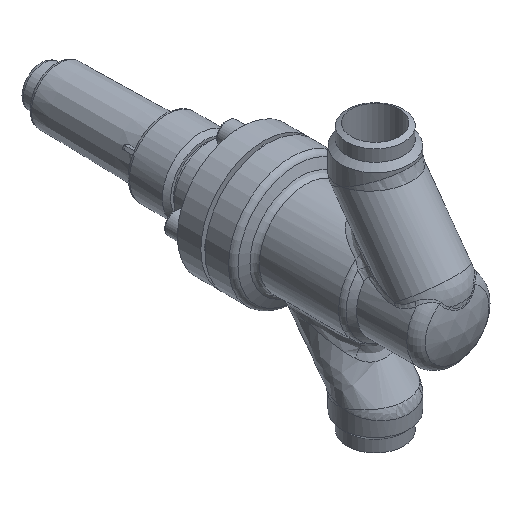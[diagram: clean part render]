
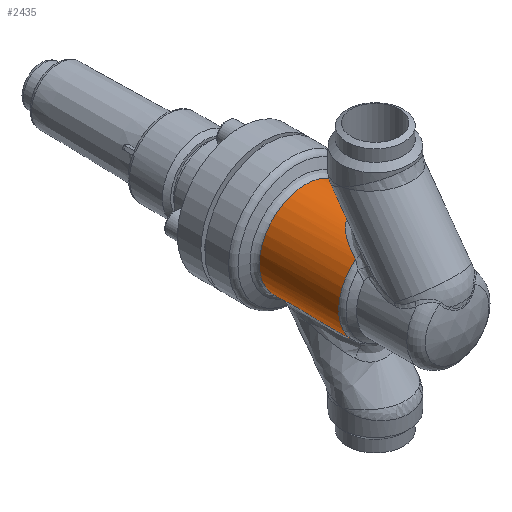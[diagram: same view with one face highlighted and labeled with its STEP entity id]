
A CAD part, isometric view. The second image highlights one B-rep face of the part: STEP entity #2435.
In plain terms, the highlighted cylindrical face has radius 27.5 mm (diameter 55 mm), a partial arc.
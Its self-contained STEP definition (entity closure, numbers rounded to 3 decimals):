
#1814=CARTESIAN_POINT('',(14.746,-12.391,-23.212));
#1815=VERTEX_POINT('',#1814);
#1816=CARTESIAN_POINT('',(-14.746,-12.391,-23.212));
#1817=VERTEX_POINT('',#1816);
#1851=CARTESIAN_POINT('',(20.819,-37.861,-17.967));
#1852=VERTEX_POINT('',#1851);
#1853=CARTESIAN_POINT('',(14.746,-12.391,-23.212));
#1854=CARTESIAN_POINT('',(15.791,-13.097,-22.548));
#1855=CARTESIAN_POINT('',(18.112,-15.081,-20.837));
#1856=CARTESIAN_POINT('',(20.591,-19.238,-18.301));
#1857=CARTESIAN_POINT('',(21.711,-25.101,-16.878));
#1858=CARTESIAN_POINT('',(21.729,-30.689,-16.857));
#1859=CARTESIAN_POINT('',(21.293,-34.925,-17.41));
#1860=CARTESIAN_POINT('',(20.921,-37.274,-17.849));
#1861=CARTESIAN_POINT('',(20.82,-37.861,-17.966));
#1862=B_SPLINE_CURVE_WITH_KNOTS('',3,(#1853,#1854,#1855,#1856,#1857,#1858,#1859,#1860,#1861),.UNSPECIFIED.,.F.,.U.,(4,1,1,1,1,1,4),(6.571,7.093,7.827,8.378,8.928,9.479,9.664),.UNSPECIFIED.);
#1863=EDGE_CURVE('',#1815,#1852,#1862,.T.);
#1865=CARTESIAN_POINT('',(12.735,-59.68,-24.373));
#1866=VERTEX_POINT('',#1865);
#1867=CARTESIAN_POINT('',(20.819,-37.861,-17.967));
#1868=CARTESIAN_POINT('',(20.62,-39.016,-18.197));
#1869=CARTESIAN_POINT('',(20.393,-40.158,-18.453));
#1870=CARTESIAN_POINT('',(20.14,-41.285,-18.725));
#1871=CARTESIAN_POINT('',(19.41,-44.545,-19.51));
#1872=CARTESIAN_POINT('',(18.47,-47.687,-20.426));
#1873=CARTESIAN_POINT('',(17.327,-50.649,-21.355));
#1874=CARTESIAN_POINT('',(17.278,-50.777,-21.395));
#1875=CARTESIAN_POINT('',(17.228,-50.905,-21.435));
#1876=CARTESIAN_POINT('',(17.178,-51.032,-21.475));
#1877=CARTESIAN_POINT('',(15.965,-54.11,-22.447));
#1878=CARTESIAN_POINT('',(14.503,-57.056,-23.45));
#1879=CARTESIAN_POINT('',(12.735,-59.68,-24.373));
#1880=B_SPLINE_CURVE_WITH_KNOTS('',3,(#1867,#1868,#1869,#1870,#1871,#1872,#1873,#1874,#1875,#1876,#1877,#1878,#1879),.UNSPECIFIED.,.F.,.U.,(4,3,3,3,4),(-9.665,-9.3,-8.244,-8.198,-7.097),.UNSPECIFIED.);
#1881=EDGE_CURVE('',#1852,#1866,#1880,.T.);
#1892=CARTESIAN_POINT('',(-12.735,-59.68,-24.373));
#1893=VERTEX_POINT('',#1892);
#1901=CARTESIAN_POINT('',(-12.735,-59.68,-24.373));
#1902=CARTESIAN_POINT('',(-14.507,-57.05,-23.448));
#1903=CARTESIAN_POINT('',(-17.416,-51.188,-21.451));
#1904=CARTESIAN_POINT('',(-20.048,-42.469,-18.895));
#1905=CARTESIAN_POINT('',(-21.462,-34.356,-17.209));
#1906=CARTESIAN_POINT('',(-21.829,-28.197,-16.725));
#1907=CARTESIAN_POINT('',(-21.405,-23.335,-17.271));
#1908=CARTESIAN_POINT('',(-20.341,-18.836,-18.556));
#1909=CARTESIAN_POINT('',(-18.121,-15.085,-20.832));
#1910=CARTESIAN_POINT('',(-15.794,-13.096,-22.545));
#1911=CARTESIAN_POINT('',(-14.746,-12.389,-23.21));
#1912=B_SPLINE_CURVE_WITH_KNOTS('',3,(#1901,#1902,#1903,#1904,#1905,#1906,#1907,#1908,#1909,#1910,#1911),.UNSPECIFIED.,.F.,.U.,(4,1,1,1,1,1,1,1,4),(-3.187,-2.086,-0.985,-0.25,0.484,0.851,1.218,1.953,2.475),.UNSPECIFIED.);
#1913=EDGE_CURVE('',#1893,#1817,#1912,.T.);
#2014=CARTESIAN_POINT('',(0.,-12.391,0.0));
#2015=DIRECTION('',(0.0,1.0,0.0));
#2016=DIRECTION('',(-1.0,0.0,0.0));
#2017=AXIS2_PLACEMENT_3D('',#2014,#2015,#2016);
#2018=CIRCLE('',#2017,27.5);
#2019=EDGE_CURVE('',#1817,#1815,#2018,.T.);
#2148=CARTESIAN_POINT('',(-17.445,-59.68,21.259));
#2149=VERTEX_POINT('',#2148);
#2158=CARTESIAN_POINT('',(17.445,-59.68,21.259));
#2159=VERTEX_POINT('',#2158);
#2167=CARTESIAN_POINT('',(17.445,-59.68,21.259));
#2168=CARTESIAN_POINT('',(16.765,-57.754,21.816));
#2169=CARTESIAN_POINT('',(15.738,-55.253,22.587));
#2170=CARTESIAN_POINT('',(13.33,-50.554,24.109));
#2171=CARTESIAN_POINT('',(10.992,-47.054,25.309));
#2172=CARTESIAN_POINT('',(7.33,-43.492,26.565));
#2173=CARTESIAN_POINT('',(4.444,-41.672,27.22));
#2174=CARTESIAN_POINT('',(1.437,-40.924,27.491));
#2175=CARTESIAN_POINT('',(-1.026,-40.847,27.519));
#2176=CARTESIAN_POINT('',(-3.857,-41.467,27.294));
#2177=CARTESIAN_POINT('',(-6.983,-43.221,26.662));
#2178=CARTESIAN_POINT('',(-10.061,-46.055,25.658));
#2179=CARTESIAN_POINT('',(-12.4,-49.166,24.585));
#2180=CARTESIAN_POINT('',(-15.097,-53.743,23.061));
#2181=CARTESIAN_POINT('',(-16.541,-57.118,22.001));
#2182=CARTESIAN_POINT('',(-17.445,-59.68,21.259));
#2183=B_SPLINE_CURVE_WITH_KNOTS('',3,(#2167,#2168,#2169,#2170,#2171,#2172,#2173,#2174,#2175,#2176,#2177,#2178,#2179,#2180,#2181,#2182),.UNSPECIFIED.,.F.,.U.,(4,1,1,1,1,1,1,1,1,1,1,1,1,4),(12.885,13.536,13.753,14.621,14.911,15.489,15.779,15.996,16.358,16.792,17.226,17.768,18.094,18.962),.UNSPECIFIED.);
#2184=EDGE_CURVE('',#2159,#2149,#2183,.T.);
#2409=CARTESIAN_POINT('',(0.,-29.695,0.0));
#2410=DIRECTION('',(0.,1.0,0.0));
#2411=DIRECTION('',(-1.0,0.0,0.0));
#2412=AXIS2_PLACEMENT_3D('',#2409,#2410,#2411);
#2413=CYLINDRICAL_SURFACE('',#2412,27.5);
#2414=ORIENTED_EDGE('',*,*,#1863,.F.);
#2415=ORIENTED_EDGE('',*,*,#2019,.F.);
#2416=ORIENTED_EDGE('',*,*,#1913,.F.);
#2417=CARTESIAN_POINT('',(0.,-59.68,0.0));
#2418=DIRECTION('',(0.0,-1.0,0.0));
#2419=DIRECTION('',(0.0,0.0,-1.0));
#2420=AXIS2_PLACEMENT_3D('',#2417,#2418,#2419);
#2421=CIRCLE('',#2420,27.5);
#2422=EDGE_CURVE('',#2149,#1893,#2421,.T.);
#2423=ORIENTED_EDGE('',*,*,#2422,.F.);
#2424=ORIENTED_EDGE('',*,*,#2184,.F.);
#2425=CARTESIAN_POINT('',(0.,-59.68,0.0));
#2426=DIRECTION('',(0.0,-1.0,0.0));
#2427=DIRECTION('',(0.0,0.0,-1.0));
#2428=AXIS2_PLACEMENT_3D('',#2425,#2426,#2427);
#2429=CIRCLE('',#2428,27.5);
#2430=EDGE_CURVE('',#1866,#2159,#2429,.T.);
#2431=ORIENTED_EDGE('',*,*,#2430,.F.);
#2432=ORIENTED_EDGE('',*,*,#1881,.F.);
#2433=EDGE_LOOP('',(#2414,#2415,#2416,#2423,#2424,#2431,#2432));
#2434=FACE_OUTER_BOUND('',#2433,.T.);
#2435=ADVANCED_FACE('',(#2434),#2413,.T.);
